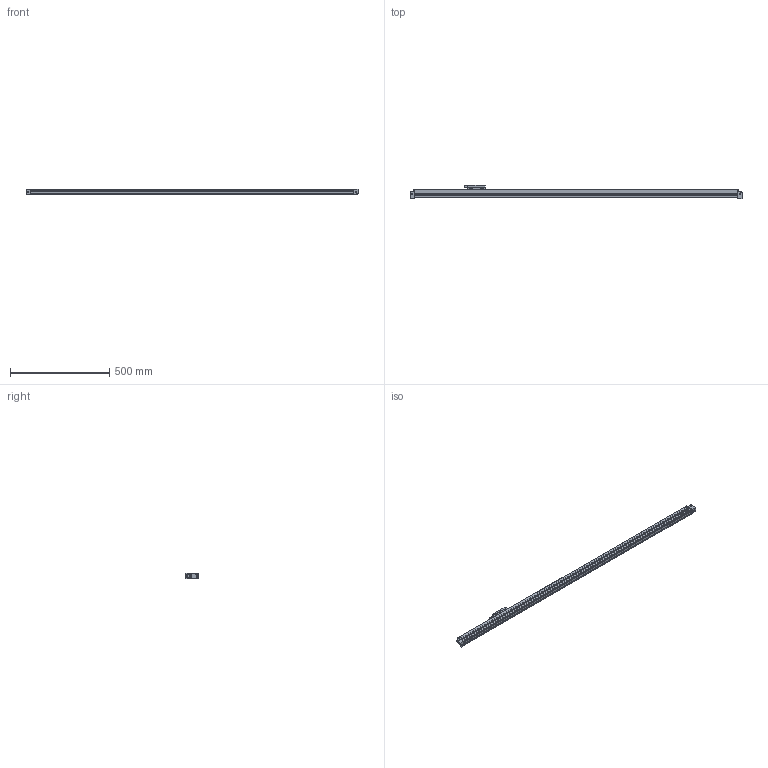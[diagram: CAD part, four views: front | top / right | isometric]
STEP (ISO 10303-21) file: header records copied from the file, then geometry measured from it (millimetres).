
FILE_DESCRIPTION (( 'STEP AP214' ), '1' );
FILE_NAME ('JCXE-L-1500.STEP', '2021-12-02T09:36:12', ( '微软用户' ), ( '微软中国' ), 'SwSTEP 2.0', 'SolidWorks 2010', '' );
FILE_SCHEMA (( 'AUTOMOTIVE_DESIGN' ));
Length unit declared in the file: millimetre
Products named in the file (7): 嫖掑喜旯L1200; MSBR-2_1-1; MSBR-3_1-1; MSBR-4_1-1; PRT0002; MSBR-5_1-1; JCXE-L-1500
Assembly tree (6 placements, depth 2):
  JCXE-L-1500
    MSBR-4_1-1
    嫖掑喜旯L1200
    MSBR-2_1-1
    PRT0002
    MSBR-3_1-1
    MSBR-5_1-1
Bounding box: 1674 x 66.8 x 29.5 mm (x, y, z)
Volume: 792599.7 mm3; surface area: 512317.2 mm2
Topology: 6 solids, 6 shells, 547 faces, 1493 edges, 984 vertices
Faces by surface type: plane 331, cylinder 161, cone 27, bspline 25, sphere 3
Entity records: 18988 total; most frequent: CARTESIAN_POINT 4706, ORIENTED_EDGE 2978, DIRECTION 2838, EDGE_CURVE 1489, LINE 1018, VECTOR 1018, VERTEX_POINT 982, AXIS2_PLACEMENT_3D 910
